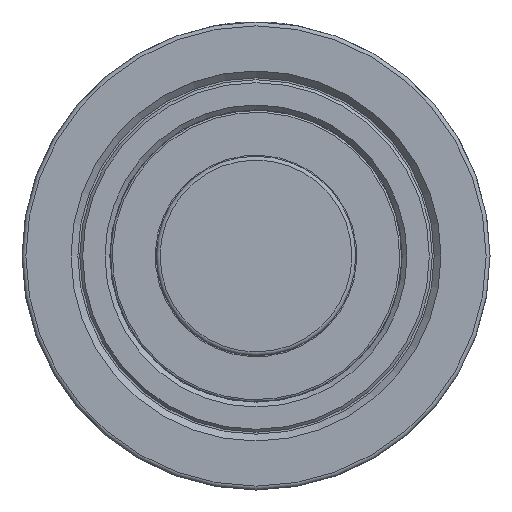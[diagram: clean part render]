
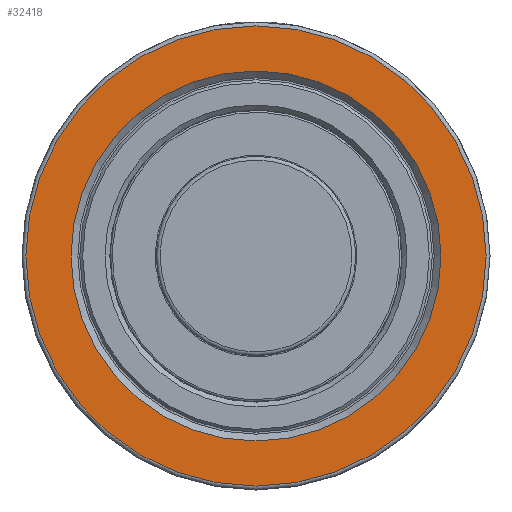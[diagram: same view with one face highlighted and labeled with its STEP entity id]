
A CAD part, left-side view. The second image highlights one B-rep face of the part: STEP entity #32418.
In plain terms, the highlighted planar face has unit normal (-1, 0, 0).
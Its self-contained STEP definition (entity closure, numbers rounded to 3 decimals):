
#5724=FACE_BOUND('',#8549,.T.);
#5913=PLANE('',#33910);
#6777=FACE_OUTER_BOUND('',#8548,.T.);
#8548=EDGE_LOOP('',(#25080));
#8549=EDGE_LOOP('',(#25081));
#13529=CIRCLE('',#33906,19.05);
#13532=CIRCLE('',#33911,23.7);
#14839=VERTEX_POINT('',#50644);
#14842=VERTEX_POINT('',#50654);
#18621=EDGE_CURVE('',#14839,#14839,#13529,.T.);
#18626=EDGE_CURVE('',#14842,#14842,#13532,.T.);
#25080=ORIENTED_EDGE('',*,*,#18626,.F.);
#25081=ORIENTED_EDGE('',*,*,#18621,.F.);
#32418=ADVANCED_FACE('',(#6777,#5724),#5913,.T.);
#33906=AXIS2_PLACEMENT_3D('',#50645,#35793,#35794);
#33910=AXIS2_PLACEMENT_3D('',#50653,#35803,#35804);
#33911=AXIS2_PLACEMENT_3D('',#50655,#35805,#35806);
#35793=DIRECTION('center_axis',(-1.,0.,0.));
#35794=DIRECTION('ref_axis',(0.,0.,
1.));
#35803=DIRECTION('center_axis',(-1.,0.,0.));
#35804=DIRECTION('ref_axis',(0.,1.,0.));
#35805=DIRECTION('center_axis',(1.,0.,0.));
#35806=DIRECTION('ref_axis',(0.,0.,
1.));
#50644=CARTESIAN_POINT('',(-29.5,0.,-19.05));
#50645=CARTESIAN_POINT('Origin',(-29.5,0.,0.));
#50653=CARTESIAN_POINT('Origin',(-29.5,0.,-24.1));
#50654=CARTESIAN_POINT('',(-29.5,23.7,0.));
#50655=CARTESIAN_POINT('Origin',(-29.5,0.,0.));
